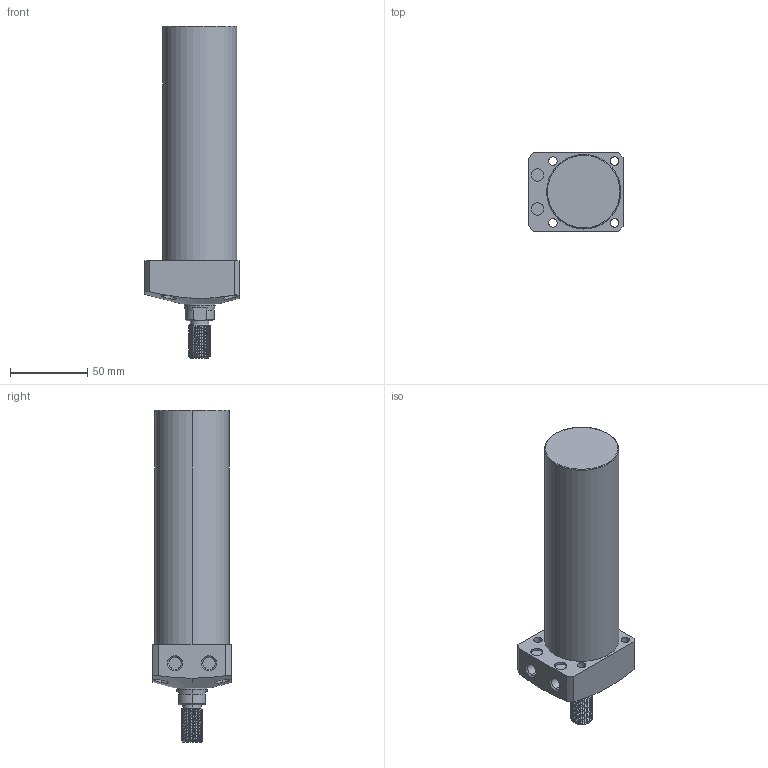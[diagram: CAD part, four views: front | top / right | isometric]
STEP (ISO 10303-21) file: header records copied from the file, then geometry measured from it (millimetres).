
FILE_DESCRIPTION (( 'STEP AP203' ), '1' );
FILE_NAME ('CLL-048CT-125.STEP', '2020-01-08T10:15:04', ( '' ), ( '' ), 'SwSTEP 2.0', 'SolidWorks 2015', '' );
FILE_SCHEMA (( 'CONFIG_CONTROL_DESIGN' ));
Length unit declared in the file: millimetre
Products named in the file (1): CLL-048CT-125
Bounding box: 61 x 51 x 215 mm (x, y, z)
Volume: 354020 mm3; surface area: 38987.6 mm2
Topology: 1 solids, 1 shells, 122 faces, 310 edges, 201 vertices
Faces by surface type: cylinder 77, plane 24, cone 17, torus 2, bspline 2
Entity records: 6475 total; most frequent: CARTESIAN_POINT 3674, ORIENTED_EDGE 620, DIRECTION 522, EDGE_CURVE 310, AXIS2_PLACEMENT_3D 206, VERTEX_POINT 201, EDGE_LOOP 141, ADVANCED_FACE 122
